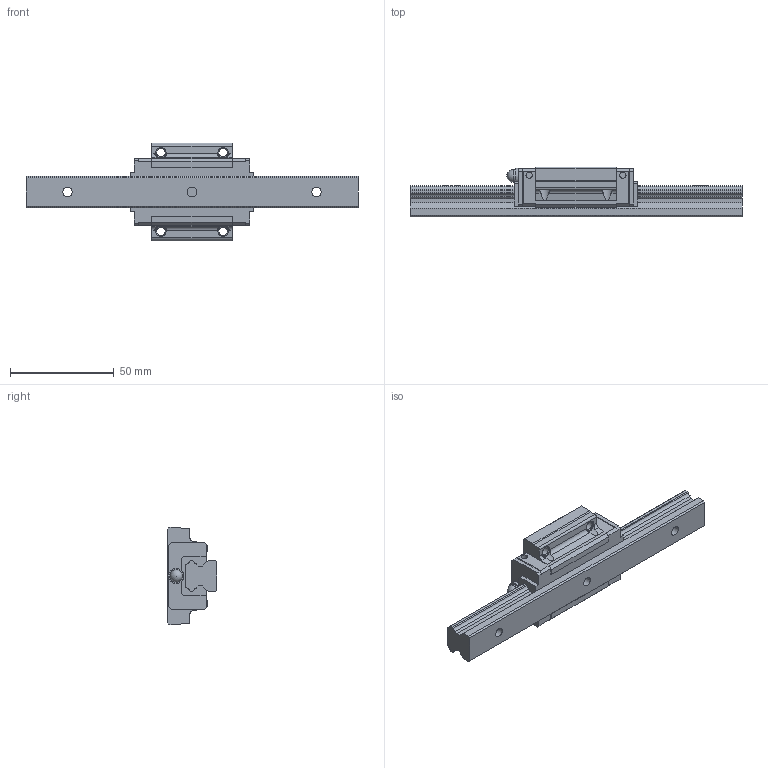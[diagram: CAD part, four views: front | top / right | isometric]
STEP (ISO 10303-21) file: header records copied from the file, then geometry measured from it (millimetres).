
FILE_DESCRIPTION(/* description */ ('STEP AP203'),/* implementation_level */ '2;1');
FILE_NAME(/* name */ 'HSR15M1A1SS-160L_G20_0_PB1021B_50-2_0_0_0_1',/* time_stamp */ '2024-05-23T06:09:04+02:00',/* author */ ('License CC BY-ND 4.0'),/* organization */ ('CADENAS'),/* preprocessor_version */ 'ST-DEVELOPER v19.3',/* originating_system */ 'PARTsolutions',/* authorisation */ ' ');
FILE_SCHEMA (('CONFIG_CONTROL_DESIGN'));
Length unit declared in the file: millimetre
Products named in the file (4): HSR15M1A1SS-160L_G20_0_PB1021B_50-2_0_0_0_1; HSR15M1A116020 Rail; HSR15M1ASSPB1021B1 Slider; hsr_ftht_PB1021B_grease_nipple_joint
Assembly tree (3 placements, depth 2):
  HSR15M1A1SS-160L_G20_0_PB1021B_50-2_0_0_0_1
    HSR15M1A116020 Rail
    HSR15M1ASSPB1021B1 Slider
    hsr_ftht_PB1021B_grease_nipple_joint
Bounding box: 160 x 24 x 47 mm (x, y, z)
Volume: 62410.7 mm3; surface area: 21453.8 mm2
Topology: 3 solids, 3 shells, 188 faces, 504 edges, 332 vertices
Faces by surface type: plane 138, cylinder 41, cone 8, sphere 1
Full cylindrical faces by diameter (mm): 3 x4, 4 x3, 4.134 x4, 4.5 x3, 6 x1, 7.5 x4
Entity records: 5805 total; most frequent: CARTESIAN_POINT 1028, ORIENTED_EDGE 948, DIRECTION 936, EDGE_CURVE 474, LINE 380, VECTOR 380, VERTEX_POINT 330, AXIS2_PLACEMENT_3D 278
